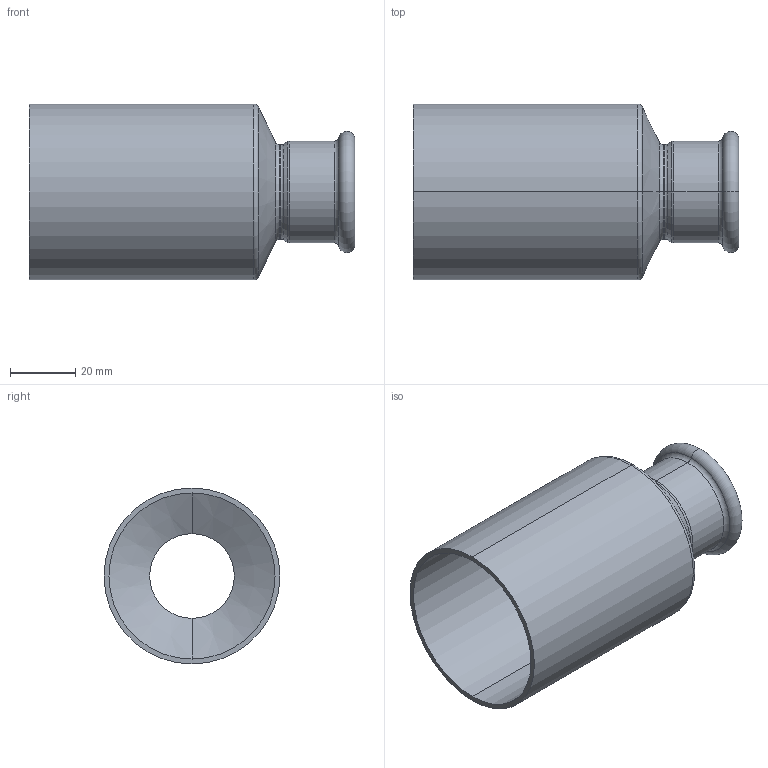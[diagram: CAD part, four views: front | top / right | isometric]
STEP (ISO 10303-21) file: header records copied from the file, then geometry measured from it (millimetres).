
FILE_DESCRIPTION (( 'STEP AP214' ), '1' );
FILE_NAME ('R54280B.STEP', '2025-08-18T00:12:08', ( '' ), ( '' ), 'SwSTEP 2.0', 'SolidWorks 2020', '' );
FILE_SCHEMA (( 'AUTOMOTIVE_DESIGN' ));
Length unit declared in the file: millimetre
Products named in the file (1): R54280B
Bounding box: 100 x 54 x 54 mm (x, y, z)
Volume: 24273.6 mm3; surface area: 32166.7 mm2
Topology: 1 solids, 1 shells, 43 faces, 86 edges, 46 vertices
Faces by surface type: torus 16, cylinder 14, cone 10, plane 3
Entity records: 1192 total; most frequent: DIRECTION 236, CARTESIAN_POINT 176, ORIENTED_EDGE 172, AXIS2_PLACEMENT_3D 106, EDGE_CURVE 86, CIRCLE 62, VERTEX_POINT 46, EDGE_LOOP 46
